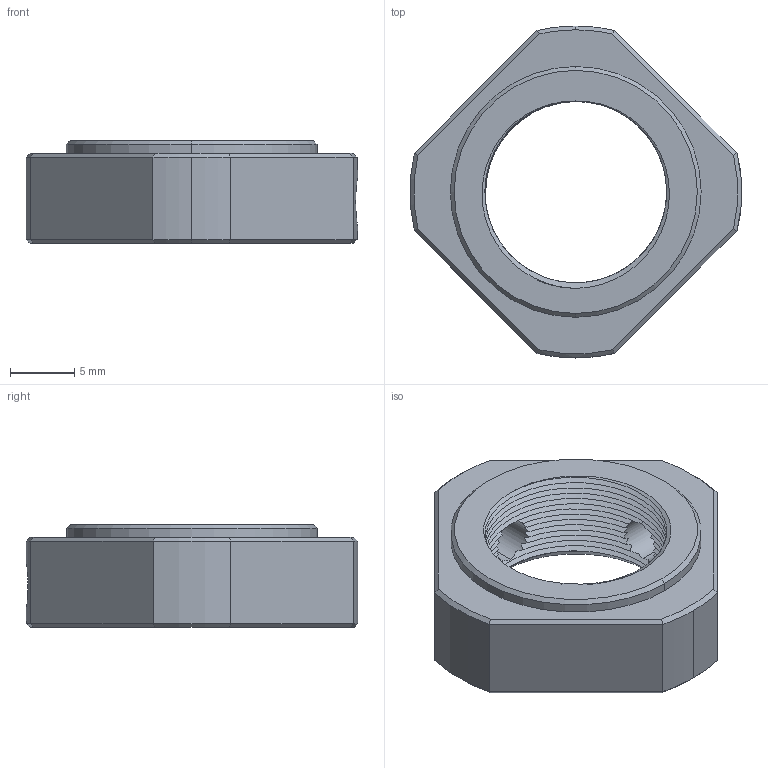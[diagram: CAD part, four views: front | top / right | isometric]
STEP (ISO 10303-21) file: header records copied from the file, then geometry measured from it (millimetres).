
FILE_DESCRIPTION (( 'STEP AP203' ), '1' );
FILE_NAME ('RN15.STEP', '2013-05-22T03:56:43', ( '' ), ( '' ), 'SwSTEP 2.0', 'SolidWorks 2013', '' );
FILE_SCHEMA (( 'CONFIG_CONTROL_DESIGN' ));
Length unit declared in the file: millimetre
Products named in the file (1): RN15
Bounding box: 25.76 x 25.8 x 8 mm (x, y, z)
Volume: 2012.7 mm3; surface area: 1883.2 mm2
Topology: 1 solids, 1 shells, 74 faces, 194 edges, 121 vertices
Faces by surface type: bspline 32, plane 16, cone 14, cylinder 12
Entity records: 16873 total; most frequent: CARTESIAN_POINT 15345, ORIENTED_EDGE 388, EDGE_CURVE 194, DIRECTION 188, VERTEX_POINT 121, B_SPLINE_CURVE_WITH_KNOTS 91, EDGE_LOOP 79, FACE_OUTER_BOUND 74
